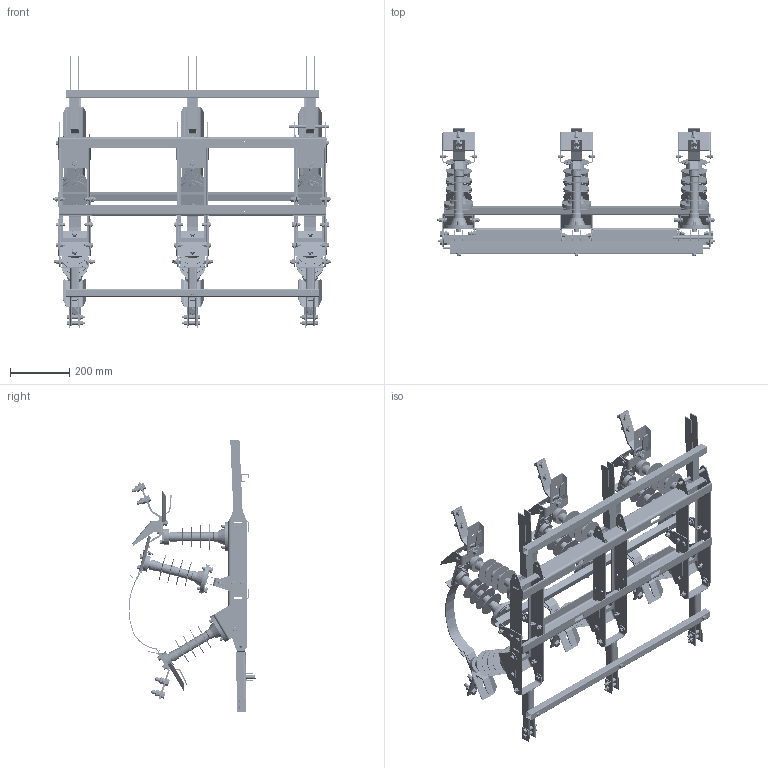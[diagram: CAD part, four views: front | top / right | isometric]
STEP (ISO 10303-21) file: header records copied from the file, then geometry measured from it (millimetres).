
FILE_DESCRIPTION (( 'STEP AP214' ), '1' );
FILE_NAME ('Ðàçúåäèíèòåëü âûñîêîâîëüòíûé ÐËÊ-2-IV-10400(630)-ÓÕË1.STEP', '2023-02-07T07:00:49', ( '' ), ( '' ), 'SwSTEP 2.0', 'SolidWorks 2018', '' );
FILE_SCHEMA (( 'AUTOMOTIVE_DESIGN' ));
Length unit declared in the file: millimetre
Products named in the file (1): Ðàçúåäèíèòåëü âûñîêîâîëüòíûé ÐËÊ-2-IV-10400(630)-ÓÕË1
Bounding box: 935.81 x 428.32 x 920.54 mm (x, y, z)
Volume: 6730827.1 mm3; surface area: 3098661.3 mm2
Topology: 1 solids, 53 shells, 5289 faces, 12658 edges, 7910 vertices
Faces by surface type: plane 3432, cylinder 1283, cone 474, bspline 87, torus 13
Full cylindrical faces by diameter (mm): 4.2 x4, 6 x12, 6.5 x6, 6.647 x3, 7 x3, 8 x47, 9 x1, 9.5 x12, 10 x21, 10.875 x7, 11.233 x5, 11.688 x5, 11.7 x9, 12 x24, 12.35 x79, 13 x10, 14 x15, 15.2 x12, 16 x96, 16.15 x12, 18.05 x24, 20 x21, 21 x3, 24 x24, 26 x9, 30 x45, 34 x18, 53 x9, 88 x36, 99.5 x9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
Entity records: 261477 total; most frequent: CARTESIAN_POINT 88281, DIRECTION 22987, ORIENTED_EDGE 22660, EDGE_CURVE 11330, AXIS2_PLACEMENT_3D 8258, VERTEX_POINT 7530, EDGE_LOOP 6962, VECTOR 6471
